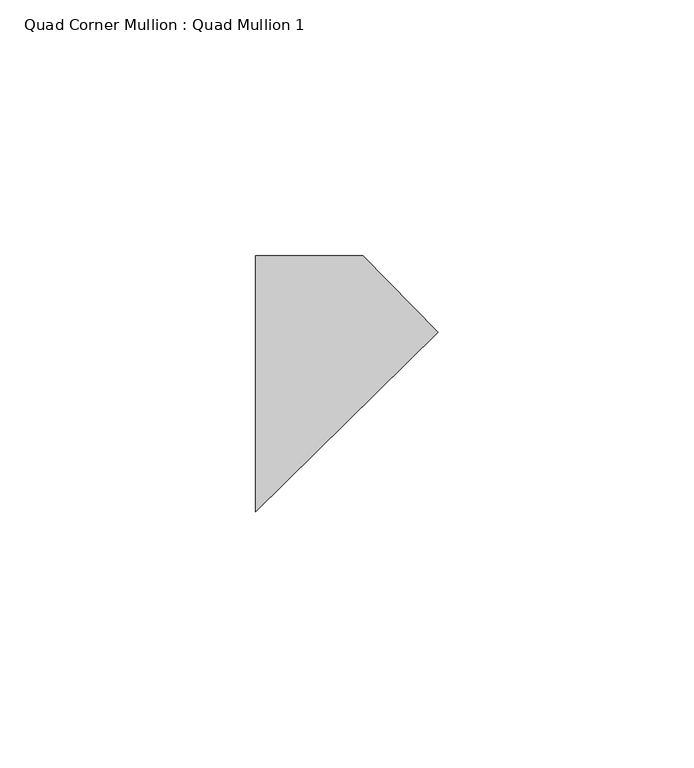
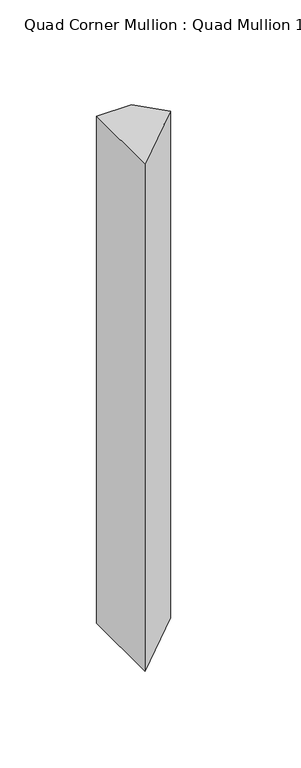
"""IFC4 building model written with IfcOpenShell, lengths in millimetres: member geometry, Quad Corner Mullion : Quad Mullion 1."""

from ifc_helpers import new_model, si_unit, frame, origin, place, context, project, spatial, polyline, outline, extrude, source, transform, mapped, element, save


def quad_corner_mullion_quad_mullion_1_5de729ed(model_context):
    return source(origin(), model_context, "Body", "SweptSolid", [
        extrude(outline(polyline([(25.1823208, 10.0399087), (-10.4856592, -25.0), (-10.4856592, 25.0), (10.4856592, 25.0), (25.1823208, 10.0399087)])), frame((0.0, 0.0, -320.0), z_axis=(0.0, 0.0, 1.0), x_axis=(1.0, 0.0, 0.0)), (0.0, 0.0, 1.0), 320.0),
    ])


if __name__ == "__main__":
    model = new_model("IFC4")
    model_context = context("Model", 3, world=origin())
    ifc_project = project(units=[si_unit("LENGTHUNIT", "METRE", prefix="MILLI")], contexts=[model_context])
    site = spatial("IfcSite", under=ifc_project)
    building = spatial("IfcBuilding", under=site)
    placement = place(None, origin())
    quad_corner_mullion_quad_mullion_1_shape = quad_corner_mullion_quad_mullion_1_5de729ed(model_context)
    element("IfcMember", 1, ObjectType="Quad Corner Mullion : Quad Mullion 1", at=placement, inside=building, context=model_context, shape_type="MappedRepresentation", body=[
        mapped(quad_corner_mullion_quad_mullion_1_shape, transform((0.0, 0.0, 0.0), x_axis=(1.0, 0.0, 0.0), y_axis=(0.0, 1.0, 0.0), z_axis=(0.0, 0.0, 1.0))),
    ])
    save(model, "model.ifc")
